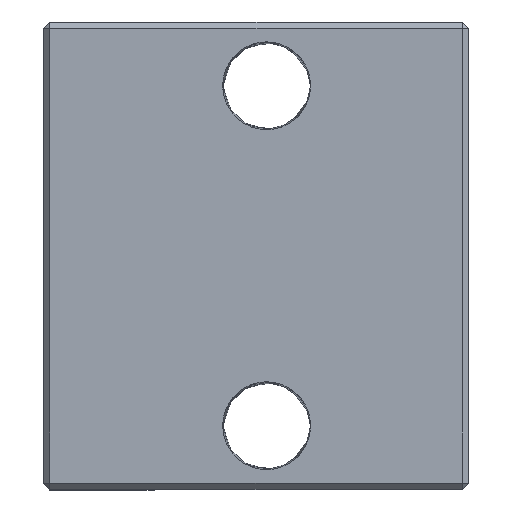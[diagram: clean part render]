
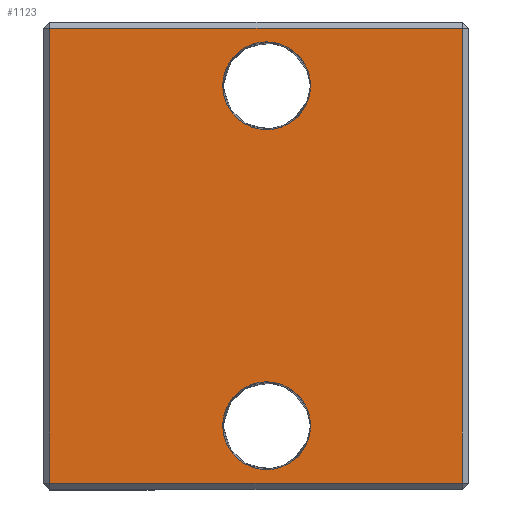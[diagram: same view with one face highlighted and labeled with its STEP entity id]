
A CAD part, top view. The second image highlights one B-rep face of the part: STEP entity #1123.
In plain terms, the highlighted planar face has unit normal (0, 0, 1).
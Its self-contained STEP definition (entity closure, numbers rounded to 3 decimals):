
#165=CARTESIAN_POINT('',(4.993,6.342,15.0));
#166=VERTEX_POINT('',#165);
#261=CARTESIAN_POINT('',(-14.407,6.342,15.0));
#262=VERTEX_POINT('',#261);
#285=CARTESIAN_POINT('',(4.993,-15.058,15.0));
#286=VERTEX_POINT('',#285);
#379=CARTESIAN_POINT('',(-14.407,-15.058,15.0));
#380=VERTEX_POINT('',#379);
#517=CARTESIAN_POINT('',(4.993,-15.058,15.0));
#518=DIRECTION('',(-1.0,0.0,0.0));
#519=VECTOR('',#518,19.4);
#520=LINE('',#517,#519);
#521=EDGE_CURVE('',#286,#380,#520,.T.);
#539=CARTESIAN_POINT('',(-14.407,-15.058,15.0));
#540=DIRECTION('',(0.0,1.0,0.0));
#541=VECTOR('',#540,21.4);
#542=LINE('',#539,#541);
#543=EDGE_CURVE('',#380,#262,#542,.T.);
#671=CARTESIAN_POINT('',(4.993,6.342,15.0));
#672=DIRECTION('',(0.0,-1.0,0.0));
#673=VECTOR('',#672,21.4);
#674=LINE('',#671,#673);
#675=EDGE_CURVE('',#166,#286,#674,.T.);
#693=CARTESIAN_POINT('',(-14.407,6.342,15.0));
#694=DIRECTION('',(1.0,0.0,0.0));
#695=VECTOR('',#694,19.4);
#696=LINE('',#693,#695);
#697=EDGE_CURVE('',#262,#166,#696,.T.);
#1090=CARTESIAN_POINT('',(-4.707,-4.358,15.0));
#1091=DIRECTION('',(0.0,0.0,1.0));
#1092=DIRECTION('',(1.0,0.0,0.0));
#1093=AXIS2_PLACEMENT_3D('',#1090,#1091,#1092);
#1094=PLANE('',#1093);
#1095=ORIENTED_EDGE('',*,*,#521,.F.);
#1096=ORIENTED_EDGE('',*,*,#675,.F.);
#1097=ORIENTED_EDGE('',*,*,#697,.F.);
#1098=ORIENTED_EDGE('',*,*,#543,.F.);
#1099=EDGE_LOOP('',(#1095,#1096,#1097,#1098));
#1100=FACE_OUTER_BOUND('',#1099,.T.);
#1101=CARTESIAN_POINT('',(-2.14,3.642,15.0));
#1102=VERTEX_POINT('',#1101);
#1103=CARTESIAN_POINT('',(-4.207,3.642,15.0));
#1104=DIRECTION('',(0.0,0.0,-1.0));
#1105=DIRECTION('',(-1.0,0.0,0.0));
#1106=AXIS2_PLACEMENT_3D('',#1103,#1104,#1105);
#1107=CIRCLE('',#1106,2.067);
#1108=EDGE_CURVE('',#1102,#1102,#1107,.T.);
#1109=ORIENTED_EDGE('',*,*,#1108,.T.);
#1110=EDGE_LOOP('',(#1109));
#1111=FACE_BOUND('',#1110,.T.);
#1112=CARTESIAN_POINT('',(-2.14,-12.358,15.0));
#1113=VERTEX_POINT('',#1112);
#1114=CARTESIAN_POINT('',(-4.207,-12.358,15.0));
#1115=DIRECTION('',(0.0,0.0,-1.0));
#1116=DIRECTION('',(-1.0,0.0,0.0));
#1117=AXIS2_PLACEMENT_3D('',#1114,#1115,#1116);
#1118=CIRCLE('',#1117,2.067);
#1119=EDGE_CURVE('',#1113,#1113,#1118,.T.);
#1120=ORIENTED_EDGE('',*,*,#1119,.T.);
#1121=EDGE_LOOP('',(#1120));
#1122=FACE_BOUND('',#1121,.T.);
#1123=ADVANCED_FACE('',(#1100,#1111,#1122),#1094,.T.);
